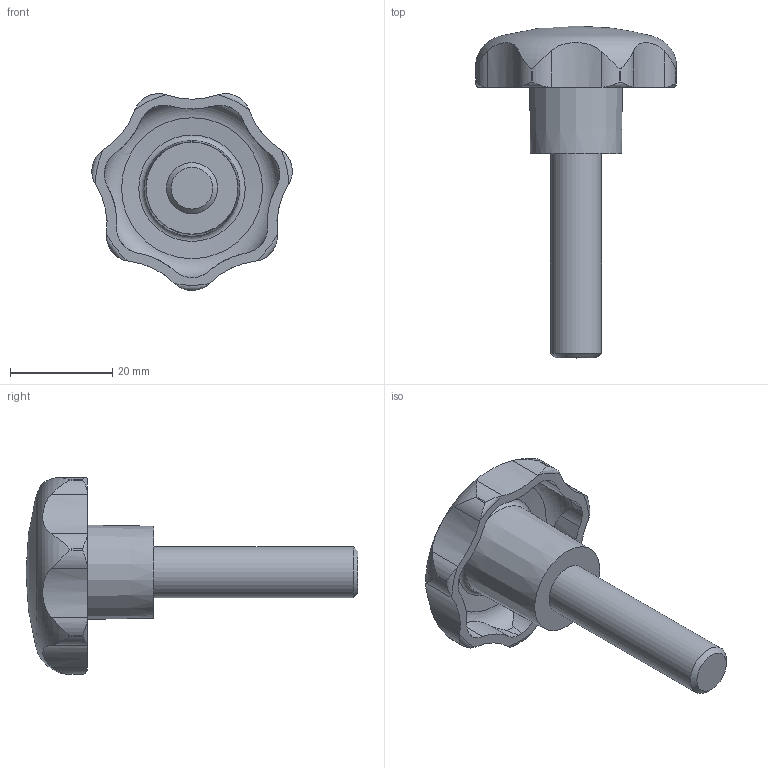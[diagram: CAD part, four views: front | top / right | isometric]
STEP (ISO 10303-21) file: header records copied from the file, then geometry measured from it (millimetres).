
FILE_DESCRIPTION( ( 'STEP AP203' ), '1' );
FILE_NAME( 'C:/Temp/Ganter_Step_05_03_2020/data/2_2/gn_6336_4/gn_6336_4_st/Star knob GN 6336.4-ST-40-M10-40.stp', '2020-03-05T12:07:34', ( 'License CC BY-ND 4.0' ), ( 'CADENAS' ), ' ', 'PARTsolutions', ' ' );
FILE_SCHEMA( ( 'CONFIG_CONTROL_DESIGN' ) );
Length unit declared in the file: millimetre
Products named in the file (1): _Star knob GN 6336.4-ST-40-M10-40
Bounding box: 39.24 x 65 x 38.52 mm (x, y, z)
Volume: 13941.1 mm3; surface area: 6134.2 mm2
Topology: 1 solids, 1 shells, 74 faces, 209 edges, 138 vertices
Faces by surface type: cylinder 43, torus 17, cone 10, plane 3, sphere 1
Full cylindrical faces by diameter (mm): 10 x1
Entity records: 3288 total; most frequent: CARTESIAN_POINT 1437, ORIENTED_EDGE 394, DIRECTION 362, EDGE_CURVE 197, AXIS2_PLACEMENT_3D 160, VERTEX_POINT 135, CIRCLE 85, EDGE_LOOP 83
